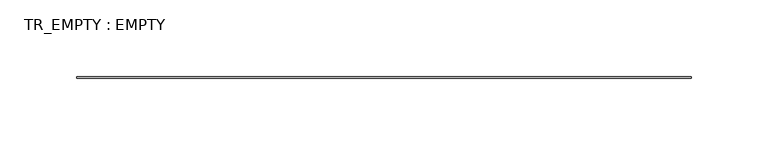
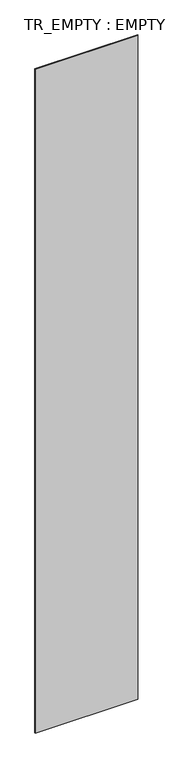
"""IFC4 building model written with IfcOpenShell, lengths in millimetres: plate geometry, TR_EMPTY : EMPTY."""

from ifc_helpers import new_model, si_unit, frame, origin, place, context, project, spatial, polyline, outline, extrude, source, transform, mapped, element, save


def tr_empty_empty_82193d3f(model_context):
    return source(origin(), model_context, "Body", "SweptSolid", [
        extrude(outline(polyline([(199.9999998, -31.0), (-199.9999998, -31.0), (-199.9999998, -30.0), (199.9999998, -30.0), (199.9999998, -31.0)])), frame((0.0, 0.0, 50.0), z_axis=(0.0, 0.0, 1.0), x_axis=(1.0, 0.0, 0.0)), (0.0, 0.0, 1.0), 2730.0),
    ])


if __name__ == "__main__":
    model = new_model("IFC4")
    model_context = context("Model", 3, world=origin())
    ifc_project = project(units=[si_unit("LENGTHUNIT", "METRE", prefix="MILLI")], contexts=[model_context])
    site = spatial("IfcSite", under=ifc_project)
    building = spatial("IfcBuilding", under=site)
    placement = place(None, origin())
    tr_empty_empty_shape = tr_empty_empty_82193d3f(model_context)
    element("IfcPlate", 1, ObjectType="TR_EMPTY : EMPTY", at=placement, inside=building, context=model_context, shape_type="MappedRepresentation", body=[
        mapped(tr_empty_empty_shape, transform((0.0, 0.0, 0.0), x_axis=(1.0, 0.0, 0.0), y_axis=(0.0, 1.0, 0.0), z_axis=(0.0, 0.0, 1.0))),
    ])
    save(model, "model.ifc")
